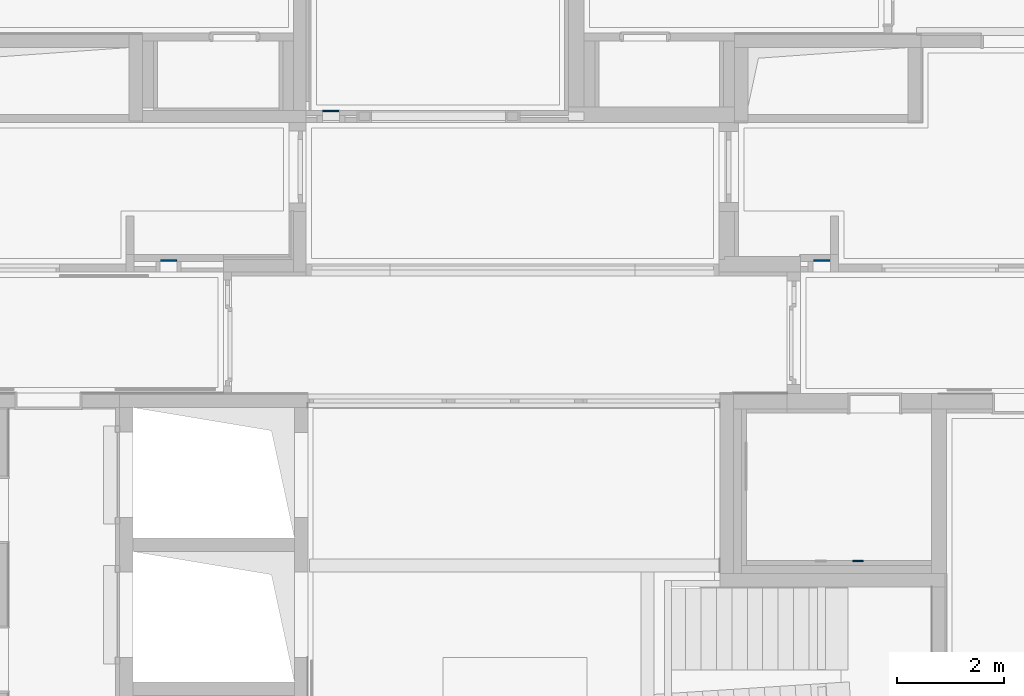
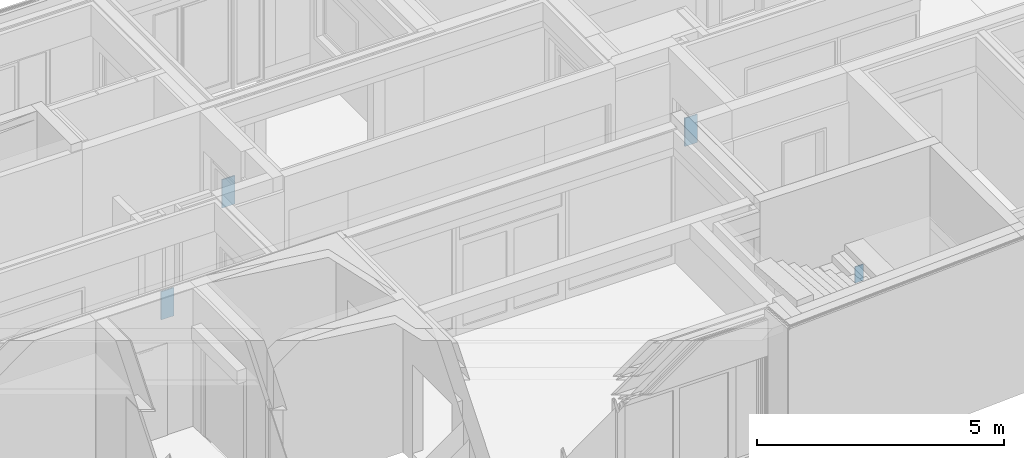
# One storey, part 154 of 207: 4 walls.
"""IFC4 building model written with IfcOpenShell, lengths in metres."""

from ifc_helpers import new_model, entity, si_unit, converted_unit, derived_unit, frame, origin, place, context, subcontext, project, spatial, faceted_brep, element, save


model = new_model("IFC4")

# Units and contexts
model_context = context("Model", 3, precision=1e-05, world=origin())
body_context = subcontext(model_context, "Body", "Model", "MODEL_VIEW")
ifc_project = project(units=[si_unit("LENGTHUNIT", "METRE"), si_unit("AREAUNIT", "SQUARE_METRE"), si_unit("VOLUMEUNIT", "CUBIC_METRE"), si_unit("MASSUNIT", "GRAM", prefix="KILO"), converted_unit("PLANEANGLEUNIT", "DEGREE", entity("IfcPlaneAngleMeasure", 0.0174532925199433), si_unit("PLANEANGLEUNIT", "RADIAN"), dimensions=[0, 0, 0, 0, 0, 0, 0]), derived_unit("THERMALTRANSMITTANCEUNIT", [(si_unit("POWERUNIT", "WATT"), 1), (si_unit("THERMODYNAMICTEMPERATUREUNIT", "KELVIN"), -1), (si_unit("LENGTHUNIT", "METRE"), -2)]), derived_unit("VOLUMETRICFLOWRATEUNIT", [(si_unit("LENGTHUNIT", "METRE"), 3), (converted_unit("TIMEUNIT", "hour", entity("IfcTimeMeasure", 3600.0), si_unit("TIMEUNIT", "SECOND"), dimensions=[0, 0, 1, 0, 0, 0, 0]), -1), (si_unit("LENGTHUNIT", "METRE"), -1)])], contexts=[model_context])

# Site, building, storey
site_placement = place(None, origin())
site = spatial("IfcSite", under=ifc_project, at=site_placement, Name="Psychiatrie Neubau Wunstorf", CompositionType="ELEMENT")
building_placement = place(site_placement, origin())
building = spatial("IfcBuilding", under=site, at=building_placement, Name="Neubau H2 Stationsgebäude", CompositionType="ELEMENT")
storey_placement = place(building_placement, frame((0.0, 0.0, -0.2)))
storey = spatial("IfcBuildingStorey", under=building, at=storey_placement, Name="H2 Ebene 0", CompositionType="ELEMENT", Elevation=-0.2)

# Walls
for number, where, name in (
    (1, (47.7888707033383, 3.01749969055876, 0.85), "WV 1.1"),
    (2, (50.8335650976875, 5.82449969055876, 0.85), "WV 1.1"),
):
    element("IfcWall", number, at=place(storey_placement, frame(where)), inside=storey, Name=name, context=body_context, shape_type="Brep", body=[
        faceted_brep([(0.3, 0.0, 0.0), (0.3, 0.025, 0.0), (0.0, 0.025, 0.0), (0.0, 0.0, 0.0), (0.3, 0.025, 0.7), (0.3, 0.0, 0.7), (0.0, 0.0, 0.7), (0.0, 0.025, 0.7)], [[[0, 1, 2, 3]], [[4, 5, 6, 7]], [[1, 0, 5, 4]], [[2, 1, 4, 7]], [[3, 2, 7, 6]], [[0, 3, 6, 5]]], orient=[[False], [False], [False], [False], [False], [False]]),
    ])
wall_1_placement = place(storey_placement, frame((60.7679718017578, -2.61349131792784, 0.63)))
element("IfcWall", 3, at=wall_1_placement, inside=storey, Name="WV 1.1", context=body_context, shape_type="Brep", body=[
    faceted_brep([(0.2, 0.0, 0.0), (0.2, 0.025, 0.0), (0.0, 0.025, 0.0), (0.0, 0.0, 0.0), (0.2, 0.025, 0.4), (0.2, 0.0, 0.4), (0.0, 0.0, 0.4), (0.0, 0.025, 0.4)], [[[0, 1, 2, 3]], [[4, 5, 6, 7]], [[1, 0, 5, 4]], [[2, 1, 4, 7]], [[3, 2, 7, 6]], [[0, 3, 6, 5]]], orient=[[False], [False], [False], [False], [False], [False]]),
])
wall_2_placement = place(storey_placement, frame((60.0400000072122, 3.01756972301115, 0.85)))
element("IfcWall", 4, at=wall_2_placement, inside=storey, Name="WV 1.1", context=body_context, shape_type="Brep", body=[
    faceted_brep([(0.3, 0.0, 0.0), (0.3, 0.025, 0.0), (0.0, 0.025, 0.0), (0.0, 0.0, 0.0), (0.3, 0.025, 0.7), (0.3, 0.0, 0.7), (0.0, 0.0, 0.7), (0.0, 0.025, 0.7)], [[[0, 1, 2, 3]], [[4, 5, 6, 7]], [[1, 0, 5, 4]], [[2, 1, 4, 7]], [[3, 2, 7, 6]], [[0, 3, 6, 5]]], orient=[[False], [False], [False], [False], [False], [False]]),
])

save(model, "model.ifc")
